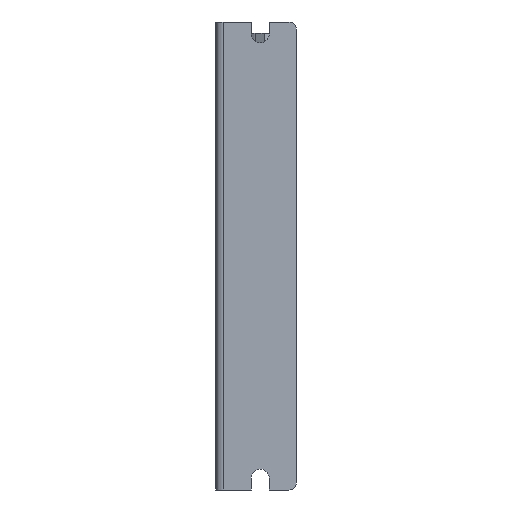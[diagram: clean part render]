
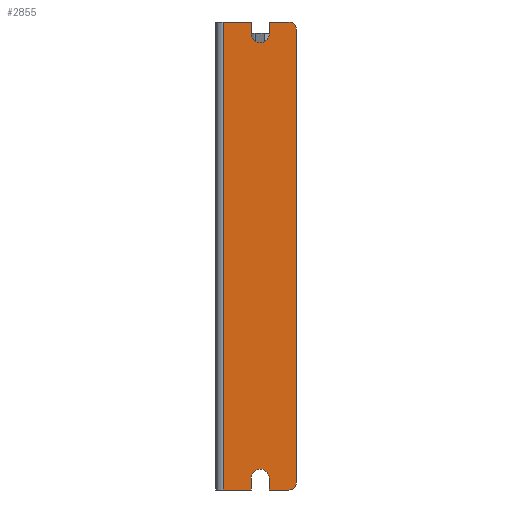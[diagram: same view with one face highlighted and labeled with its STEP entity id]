
A CAD part, front view. The second image highlights one B-rep face of the part: STEP entity #2855.
In plain terms, the highlighted planar face has unit normal (0, -1, 0).
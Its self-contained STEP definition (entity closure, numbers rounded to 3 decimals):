
#61 = PLANE ( 'NONE',  #12195 ) ;
#153 = LINE ( 'NONE', #7423, #3877 ) ;
#191 = LINE ( 'NONE', #12063, #14631 ) ;
#277 = EDGE_CURVE ( 'NONE', #8714, #5409, #153, .T. ) ;
#315 = VERTEX_POINT ( 'NONE', #14657 ) ;
#362 = EDGE_CURVE ( 'NONE', #10451, #11774, #10418, .T. ) ;
#460 = DIRECTION ( 'NONE',  ( 0., -1., 0. ) ) ;
#537 = VECTOR ( 'NONE', #17508, 1000. ) ;
#675 = CARTESIAN_POINT ( 'NONE',  ( 51.368, -24.47, -246.579 ) ) ;
#861 = VECTOR ( 'NONE', #10466, 1000. ) ;
#1233 = DIRECTION ( 'NONE',  ( 0., 0., -1. ) ) ;
#1284 = EDGE_CURVE ( 'NONE', #13009, #9818, #10827, .T. ) ;
#1359 = CARTESIAN_POINT ( 'NONE',  ( 50.868, -24.47, -209.579 ) ) ;
#1393 = CARTESIAN_POINT ( 'NONE',  ( 59.168, -24.47, -246.579 ) ) ;
#1486 = EDGE_CURVE ( 'NONE', #14294, #17232, #2519, .T. ) ;
#1817 = ORIENTED_EDGE ( 'NONE', *, *, #11111, .T. ) ;
#2103 = EDGE_CURVE ( 'NONE', #12908, #12576, #15805, .T. ) ;
#2312 = LINE ( 'NONE', #11213, #13457 ) ;
#2364 = DIRECTION ( 'NONE',  ( -1., 0., 0. ) ) ;
#2479 = CIRCLE ( 'NONE', #16233, 2.5 ) ;
#2509 = DIRECTION ( 'NONE',  ( 0., 0., -1. ) ) ;
#2519 = LINE ( 'NONE', #17641, #16992 ) ;
#2855 = ADVANCED_FACE ( 'NONE', ( #11784 ), #61, .T. ) ;
#3341 = DIRECTION ( 'NONE',  ( 0., 0., -1. ) ) ;
#3347 = CARTESIAN_POINT ( 'NONE',  ( 64.168, -24.47, -373.279 ) ) ;
#3495 = ORIENTED_EDGE ( 'NONE', *, *, #8178, .F. ) ;
#3514 = CARTESIAN_POINT ( 'NONE',  ( 50.868, -24.47, -376.579 ) ) ;
#3592 = ORIENTED_EDGE ( 'NONE', *, *, #10853, .F. ) ;
#3763 = DIRECTION ( 'NONE',  ( -1., 0., 0. ) ) ;
#3877 = VECTOR ( 'NONE', #17498, 1000. ) ;
#4325 = CARTESIAN_POINT ( 'NONE',  ( 59.168, -24.47, -376.579 ) ) ;
#4463 = EDGE_CURVE ( 'NONE', #11006, #12908, #2312, .T. ) ;
#4824 = VECTOR ( 'NONE', #11910, 1000. ) ;
#5149 = CARTESIAN_POINT ( 'NONE',  ( 69.668, -24.47, -246.579 ) ) ;
#5219 = ORIENTED_EDGE ( 'NONE', *, *, #5239, .F. ) ;
#5239 = EDGE_CURVE ( 'NONE', #10283, #6853, #16767, .T. ) ;
#5310 = ORIENTED_EDGE ( 'NONE', *, *, #5686, .F. ) ;
#5409 = VERTEX_POINT ( 'NONE', #11529 ) ;
#5686 = EDGE_CURVE ( 'NONE', #11006, #5409, #13675, .T. ) ;
#5717 = CARTESIAN_POINT ( 'NONE',  ( 69.668, -24.47, -248.579 ) ) ;
#5871 = CIRCLE ( 'NONE', #7144, 2. ) ;
#6516 = CARTESIAN_POINT ( 'NONE',  ( 71.668, -24.47, -248.579 ) ) ;
#6853 = VERTEX_POINT ( 'NONE', #13566 ) ;
#6904 = DIRECTION ( 'NONE',  ( 0., -1., 0. ) ) ;
#7144 = AXIS2_PLACEMENT_3D ( 'NONE', #5717, #460, #8661 ) ;
#7374 = DIRECTION ( 'NONE',  ( 0., 1., 0. ) ) ;
#7423 = CARTESIAN_POINT ( 'NONE',  ( 51.368, -24.47, -209.579 ) ) ;
#7739 = EDGE_CURVE ( 'NONE', #12576, #11774, #15820, .T. ) ;
#7849 = LINE ( 'NONE', #16008, #861 ) ;
#8178 = EDGE_CURVE ( 'NONE', #9818, #315, #2479, .T. ) ;
#8411 = DIRECTION ( 'NONE',  ( 0., -1., 0. ) ) ;
#8661 = DIRECTION ( 'NONE',  ( 0., 0., -1. ) ) ;
#8714 = VERTEX_POINT ( 'NONE', #675 ) ;
#9075 = EDGE_LOOP ( 'NONE', ( #3592, #3495, #12472, #12051, #17386, #5310, #13823, #12010, #13091, #12659, #13860, #5219, #1817, #9912 ) ) ;
#9292 = DIRECTION ( 'NONE',  ( 1., 0., 0. ) ) ;
#9378 = DIRECTION ( 'NONE',  ( 0., -1., 0. ) ) ;
#9437 = CARTESIAN_POINT ( 'NONE',  ( 61.668, -24.47, -249.879 ) ) ;
#9735 = VECTOR ( 'NONE', #2364, 1000. ) ;
#9818 = VERTEX_POINT ( 'NONE', #17363 ) ;
#9893 = DIRECTION ( 'NONE',  ( 0., 0., 1. ) ) ;
#9912 = ORIENTED_EDGE ( 'NONE', *, *, #1486, .F. ) ;
#10283 = VERTEX_POINT ( 'NONE', #6516 ) ;
#10395 = CARTESIAN_POINT ( 'NONE',  ( 64.168, -24.47, -379.879 ) ) ;
#10418 = LINE ( 'NONE', #3514, #17024 ) ;
#10451 = VERTEX_POINT ( 'NONE', #18009 ) ;
#10466 = DIRECTION ( 'NONE',  ( 0., 0., 1. ) ) ;
#10470 = CIRCLE ( 'NONE', #10781, 2. ) ;
#10781 = AXIS2_PLACEMENT_3D ( 'NONE', #16778, #8411, #15607 ) ;
#10827 = LINE ( 'NONE', #15806, #537 ) ;
#10853 = EDGE_CURVE ( 'NONE', #315, #14294, #7849, .T. ) ;
#11006 = VERTEX_POINT ( 'NONE', #4325 ) ;
#11031 = EDGE_CURVE ( 'NONE', #10451, #6853, #10470, .T. ) ;
#11111 = EDGE_CURVE ( 'NONE', #10283, #17232, #5871, .T. ) ;
#11175 = CARTESIAN_POINT ( 'NONE',  ( 64.168, -24.47, -246.579 ) ) ;
#11213 = CARTESIAN_POINT ( 'NONE',  ( 59.168, -24.47, -379.879 ) ) ;
#11264 = CARTESIAN_POINT ( 'NONE',  ( 59.168, -24.47, -373.279 ) ) ;
#11529 = CARTESIAN_POINT ( 'NONE',  ( 51.368, -24.47, -376.579 ) ) ;
#11774 = VERTEX_POINT ( 'NONE', #14212 ) ;
#11784 = FACE_OUTER_BOUND ( 'NONE', #9075, .T. ) ;
#11910 = DIRECTION ( 'NONE',  ( 0., 0., -1. ) ) ;
#12010 = ORIENTED_EDGE ( 'NONE', *, *, #2103, .T. ) ;
#12051 = ORIENTED_EDGE ( 'NONE', *, *, #18173, .F. ) ;
#12063 = CARTESIAN_POINT ( 'NONE',  ( 50.868, -24.47, -246.579 ) ) ;
#12195 = AXIS2_PLACEMENT_3D ( 'NONE', #1359, #6904, #1233 ) ;
#12472 = ORIENTED_EDGE ( 'NONE', *, *, #1284, .F. ) ;
#12576 = VERTEX_POINT ( 'NONE', #3347 ) ;
#12659 = ORIENTED_EDGE ( 'NONE', *, *, #362, .F. ) ;
#12908 = VERTEX_POINT ( 'NONE', #11264 ) ;
#13009 = VERTEX_POINT ( 'NONE', #1393 ) ;
#13091 = ORIENTED_EDGE ( 'NONE', *, *, #7739, .T. ) ;
#13457 = VECTOR ( 'NONE', #9893, 1000. ) ;
#13566 = CARTESIAN_POINT ( 'NONE',  ( 71.668, -24.47, -374.579 ) ) ;
#13675 = LINE ( 'NONE', #15038, #9735 ) ;
#13785 = CARTESIAN_POINT ( 'NONE',  ( 61.668, -24.47, -373.279 ) ) ;
#13823 = ORIENTED_EDGE ( 'NONE', *, *, #4463, .T. ) ;
#13860 = ORIENTED_EDGE ( 'NONE', *, *, #11031, .T. ) ;
#14212 = CARTESIAN_POINT ( 'NONE',  ( 64.168, -24.47, -376.579 ) ) ;
#14294 = VERTEX_POINT ( 'NONE', #11175 ) ;
#14631 = VECTOR ( 'NONE', #15261, 1000. ) ;
#14657 = CARTESIAN_POINT ( 'NONE',  ( 64.168, -24.47, -249.879 ) ) ;
#15038 = CARTESIAN_POINT ( 'NONE',  ( 50.868, -24.47, -376.579 ) ) ;
#15179 = CARTESIAN_POINT ( 'NONE',  ( 71.668, -24.47, -209.579 ) ) ;
#15261 = DIRECTION ( 'NONE',  ( 1., 0., 0. ) ) ;
#15436 = VECTOR ( 'NONE', #2509, 1000. ) ;
#15500 = AXIS2_PLACEMENT_3D ( 'NONE', #13785, #7374, #3341 ) ;
#15607 = DIRECTION ( 'NONE',  ( 0., 0., -1. ) ) ;
#15805 = CIRCLE ( 'NONE', #15500, 2.5 ) ;
#15806 = CARTESIAN_POINT ( 'NONE',  ( 59.168, -24.47, -209.579 ) ) ;
#15820 = LINE ( 'NONE', #10395, #4824 ) ;
#16008 = CARTESIAN_POINT ( 'NONE',  ( 64.168, -24.47, -209.579 ) ) ;
#16233 = AXIS2_PLACEMENT_3D ( 'NONE', #9437, #9378, #17664 ) ;
#16767 = LINE ( 'NONE', #15179, #15436 ) ;
#16778 = CARTESIAN_POINT ( 'NONE',  ( 69.668, -24.47, -374.579 ) ) ;
#16992 = VECTOR ( 'NONE', #9292, 1000. ) ;
#17024 = VECTOR ( 'NONE', #3763, 1000. ) ;
#17232 = VERTEX_POINT ( 'NONE', #5149 ) ;
#17363 = CARTESIAN_POINT ( 'NONE',  ( 59.168, -24.47, -249.879 ) ) ;
#17386 = ORIENTED_EDGE ( 'NONE', *, *, #277, .T. ) ;
#17498 = DIRECTION ( 'NONE',  ( 0., 0., -1. ) ) ;
#17508 = DIRECTION ( 'NONE',  ( 0., 0., -1. ) ) ;
#17641 = CARTESIAN_POINT ( 'NONE',  ( 50.868, -24.47, -246.579 ) ) ;
#17664 = DIRECTION ( 'NONE',  ( 0., 0., -1. ) ) ;
#18009 = CARTESIAN_POINT ( 'NONE',  ( 69.668, -24.47, -376.579 ) ) ;
#18173 = EDGE_CURVE ( 'NONE', #8714, #13009, #191, .T. ) ;
